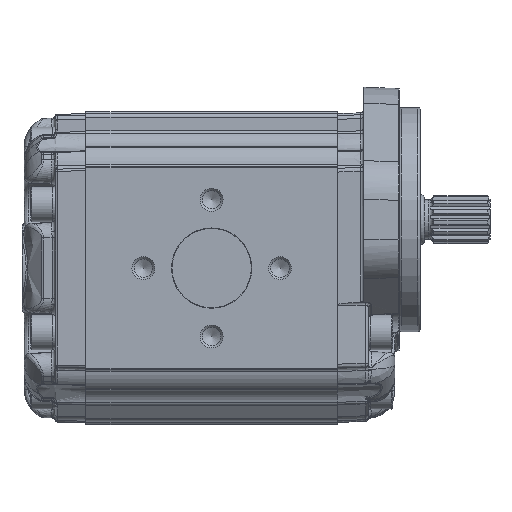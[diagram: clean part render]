
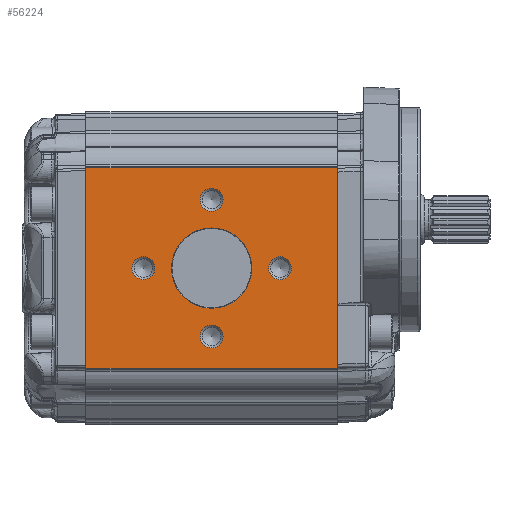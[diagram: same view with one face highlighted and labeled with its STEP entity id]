
A CAD part, left-side view. The second image highlights one B-rep face of the part: STEP entity #56224.
In plain terms, the highlighted planar face has unit normal (-1, 0, 0).
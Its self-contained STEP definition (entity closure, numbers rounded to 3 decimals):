
#6456=LINE('',#106724,#8090);
#6467=LINE('',#106808,#8101);
#6513=LINE('',#106974,#8147);
#6514=LINE('',#106975,#8148);
#8090=VECTOR('',#62814,1000.);
#8101=VECTOR('',#62889,1000.);
#8147=VECTOR('',#63067,1000.);
#8148=VECTOR('',#63068,1000.);
#14097=ORIENTED_EDGE('',*,*,#23706,.T.);
#14098=ORIENTED_EDGE('',*,*,#23707,.T.);
#14099=ORIENTED_EDGE('',*,*,#23708,.T.);
#14100=ORIENTED_EDGE('',*,*,#23709,.T.);
#14101=ORIENTED_EDGE('',*,*,#23710,.T.);
#14102=ORIENTED_EDGE('',*,*,#23581,.F.);
#14103=ORIENTED_EDGE('',*,*,#23711,.T.);
#14104=ORIENTED_EDGE('',*,*,#23623,.F.);
#14105=ORIENTED_EDGE('',*,*,#23712,.T.);
#23581=EDGE_CURVE('',#28715,#28716,#6456,.T.);
#23623=EDGE_CURVE('',#28757,#28758,#6467,.T.);
#23706=EDGE_CURVE('',#28806,#28806,#31587,.F.);
#23707=EDGE_CURVE('',#28807,#28807,#31588,.F.);
#23708=EDGE_CURVE('',#28808,#28808,#31589,.F.);
#23709=EDGE_CURVE('',#28809,#28809,#31590,.F.);
#23710=EDGE_CURVE('',#28810,#28810,#31591,.F.);
#23711=EDGE_CURVE('',#28715,#28758,#6513,.F.);
#23712=EDGE_CURVE('',#28757,#28716,#6514,.F.);
#28715=VERTEX_POINT('',#106723);
#28716=VERTEX_POINT('',#106725);
#28757=VERTEX_POINT('',#106809);
#28758=VERTEX_POINT('',#106810);
#28806=VERTEX_POINT('',#106965);
#28807=VERTEX_POINT('',#106967);
#28808=VERTEX_POINT('',#106969);
#28809=VERTEX_POINT('',#106971);
#28810=VERTEX_POINT('',#106973);
#31587=CIRCLE('',#58891,5.188);
#31588=CIRCLE('',#58892,5.188);
#31589=CIRCLE('',#58893,5.188);
#31590=CIRCLE('',#58894,5.188);
#31591=CIRCLE('',#58895,18.2);
#32931=EDGE_LOOP('',(#14097));
#32932=EDGE_LOOP('',(#14098));
#32933=EDGE_LOOP('',(#14099));
#32934=EDGE_LOOP('',(#14100));
#32935=EDGE_LOOP('',(#14101));
#32936=EDGE_LOOP('',(#14102,#14103,#14104,#14105));
#35664=FACE_BOUND('',#32931,.T.);
#35665=FACE_BOUND('',#32932,.T.);
#35666=FACE_BOUND('',#32933,.T.);
#35667=FACE_BOUND('',#32934,.T.);
#35668=FACE_BOUND('',#32935,.T.);
#35669=FACE_BOUND('',#32936,.T.);
#37475=PLANE('',#58890);
#56224=ADVANCED_FACE('',(#35664,#35665,#35666,#35667,#35668,#35669),#37475,
 .T.);
#58890=AXIS2_PLACEMENT_3D('',#106963,#63055,#63056);
#58891=AXIS2_PLACEMENT_3D('',#106964,#63057,#63058);
#58892=AXIS2_PLACEMENT_3D('',#106966,#63059,#63060);
#58893=AXIS2_PLACEMENT_3D('',#106968,#63061,#63062);
#58894=AXIS2_PLACEMENT_3D('',#106970,#63063,#63064);
#58895=AXIS2_PLACEMENT_3D('',#106972,#63065,#63066);
#62814=DIRECTION('',(0.,0.,1.));
#62889=DIRECTION('',(0.,0.,-1.));
#63055=DIRECTION('',(-1.,0.,0.));
#63056=DIRECTION('',(0.,0.,-1.));
#63057=DIRECTION('',(-1.,0.,0.));
#63058=DIRECTION('',(0.,0.,-1.));
#63059=DIRECTION('',(-1.,0.,0.));
#63060=DIRECTION('',(0.,0.,-1.));
#63061=DIRECTION('',(-1.,0.,0.));
#63062=DIRECTION('',(0.,0.,-1.));
#63063=DIRECTION('',(-1.,0.,0.));
#63064=DIRECTION('',(0.,0.,-1.));
#63065=DIRECTION('',(-1.,0.,0.));
#63066=DIRECTION('',(0.,0.,-1.));
#63067=DIRECTION('',(0.,1.,0.));
#63068=DIRECTION('',(0.,-1.,0.));
#106723=CARTESIAN_POINT('',(-57.5,114.,-45.5));
#106724=CARTESIAN_POINT('',(-57.5,114.,-91.388));
#106725=CARTESIAN_POINT('',(-57.5,114.,45.5));
#106808=CARTESIAN_POINT('',(-57.5,0.,44.978));
#106809=CARTESIAN_POINT('',(-57.5,0.,45.5));
#106810=CARTESIAN_POINT('',(-57.5,0.,-45.5));
#106963=CARTESIAN_POINT('',(-57.5,-126.279,-91.388));
#106964=CARTESIAN_POINT('',(-57.5,57.,-31.));
#106965=CARTESIAN_POINT('',(-57.5,57.,-36.188));
#106966=CARTESIAN_POINT('',(-57.5,26.,0.));
#106967=CARTESIAN_POINT('',(-57.5,26.,-5.188));
#106968=CARTESIAN_POINT('',(-57.5,57.,31.));
#106969=CARTESIAN_POINT('',(-57.5,57.,25.812));
#106970=CARTESIAN_POINT('',(-57.5,88.,0.));
#106971=CARTESIAN_POINT('',(-57.5,88.,-5.188));
#106972=CARTESIAN_POINT('',(-57.5,57.,0.));
#106973=CARTESIAN_POINT('',(-57.5,57.,-18.2));
#106974=CARTESIAN_POINT('',(-57.5,-126.279,-45.5));
#106975=CARTESIAN_POINT('',(-57.5,-126.279,45.5));
